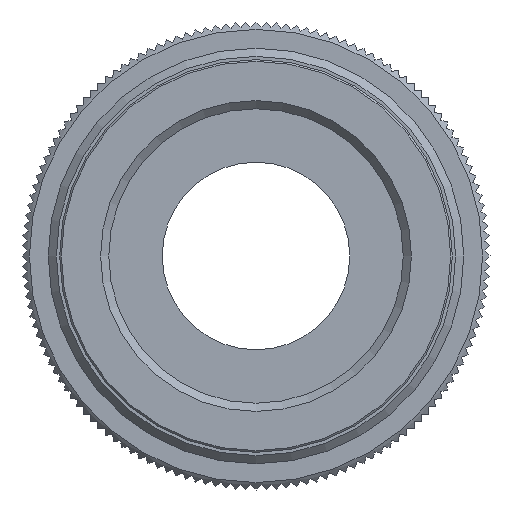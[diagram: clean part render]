
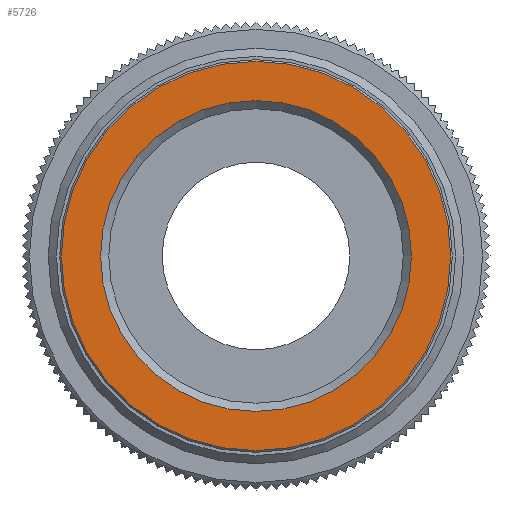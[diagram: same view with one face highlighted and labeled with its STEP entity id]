
A CAD part, front view. The second image highlights one B-rep face of the part: STEP entity #5726.
In plain terms, the highlighted planar face has unit normal (0, -1, 0).
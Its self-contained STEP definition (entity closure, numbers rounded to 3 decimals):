
#616=FACE_BOUND('',#1253,.T.);
#625=PLANE('',#6118);
#929=FACE_OUTER_BOUND('',#1252,.T.);
#1252=EDGE_LOOP('',(#3843));
#1253=EDGE_LOOP('',(#3844));
#2235=CIRCLE('',#6117,11.9);
#2236=CIRCLE('',#6119,9.5);
#2274=VERTEX_POINT('',#7545);
#2275=VERTEX_POINT('',#7549);
#2901=EDGE_CURVE('',#2274,#2274,#2235,.T.);
#2902=EDGE_CURVE('',#2275,#2275,#2236,.T.);
#3843=ORIENTED_EDGE('',*,*,#2901,.F.);
#3844=ORIENTED_EDGE('',*,*,#2902,.F.);
#5726=ADVANCED_FACE('',(#929,#616),#625,.T.);
#6117=AXIS2_PLACEMENT_3D('',#7547,#6490,#6491);
#6118=AXIS2_PLACEMENT_3D('',#7548,#6492,#6493);
#6119=AXIS2_PLACEMENT_3D('',#7550,#6494,#6495);
#6490=DIRECTION('center_axis',(0.,1.,0.));
#6491=DIRECTION('ref_axis',(1.,0.,0.));
#6492=DIRECTION('center_axis',(0.,-1.,0.));
#6493=DIRECTION('ref_axis',(0.,0.,-1.));
#6494=DIRECTION('center_axis',(0.,-1.,0.));
#6495=DIRECTION('ref_axis',(-1.,0.,0.));
#7545=CARTESIAN_POINT('',(-11.9,0.,0.));
#7547=CARTESIAN_POINT('Origin',(0.,0.,0.));
#7548=CARTESIAN_POINT('Origin',(-12.,0.,0.));
#7549=CARTESIAN_POINT('',(9.5,0.,0.));
#7550=CARTESIAN_POINT('Origin',(0.,0.,0.));
